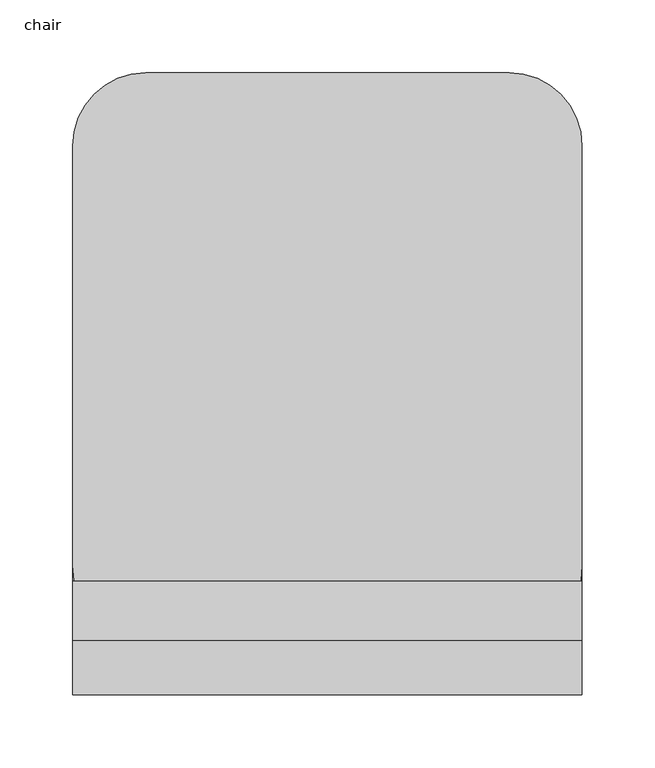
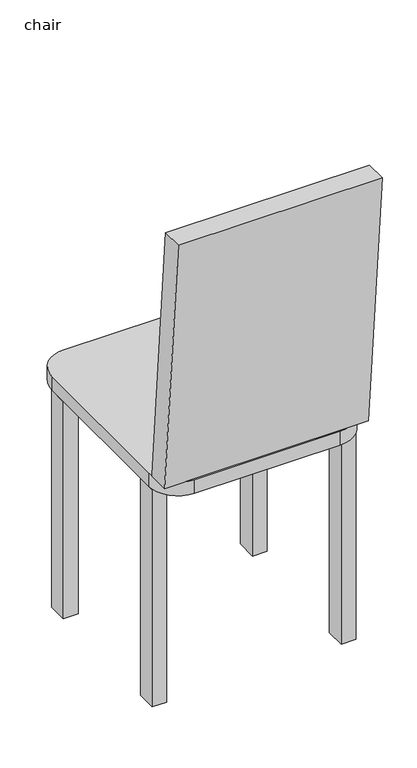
"""IFC4 building model written with IfcOpenShell, lengths in millimetres: furniture geometry, Fu_стул_LEG : chair."""

from ifc_helpers import new_model, si_unit, point, frame, frame_2d, origin, place, context, project, spatial, polyline, circle_curve, trimmed, segment, composite_curve, outline, extrude, source, transform, mapped, element, save


def chair_320c8197(model_context):
    return source(origin(), model_context, "Body", "SweptSolid", [
        extrude(outline(composite_curve([segment(trimmed(circle_curve(frame_2d((-153.2, -90.9469039)), 50.0), [point((-153.2, -140.9469039))], [point((-203.2, -90.9469039))], False, "CARTESIAN"), True, "CONTINUOUS"), segment(polyline([(-203.2, -90.9469039), (-203.2, 197.6)]), True, "CONTINUOUS"), segment(trimmed(circle_curve(frame_2d((-153.2, 197.6)), 50.0), [point((-203.2, 197.6))], [point((-153.2, 247.6))], False, "CARTESIAN"), True, "CONTINUOUS"), segment(polyline([(-153.2, 247.6), (96.8, 247.6)]), True, "CONTINUOUS"), segment(trimmed(circle_curve(frame_2d((96.8, 197.6)), 50.0), [point((96.8, 247.6))], [point((146.8, 197.6))], False, "CARTESIAN"), True, "CONTINUOUS"), segment(polyline([(146.8, 197.6), (146.8, -90.9469039)]), True, "CONTINUOUS"), segment(trimmed(circle_curve(frame_2d((96.8, -90.9469039)), 50.0), [point((146.8, -90.9469039))], [point((96.8, -140.9469039))], False, "CARTESIAN"), True, "CONTINUOUS"), segment(polyline([(96.8, -140.9469039), (-153.2, -140.9469039)]), True, "CONTINUOUS")], self_intersect=False)), frame((0.0, 0.0, 406.4), z_axis=(0.0, 0.0, 1.0), x_axis=(1.0, 0.0, 0.0)), (0.0, 0.0, 1.0), 25.0),
        extrude(outline(polyline([(-178.2, 197.6), (-178.2, 162.6), (-203.2, 162.6), (-203.2, 197.6), (-178.2, 197.6)])), frame((0.0, 0.0, 12.3), z_axis=(0.0, 0.0, 1.0), x_axis=(1.0, 0.0, 0.0)), (0.0, 0.0, 1.0), 394.1),
        extrude(outline(polyline([(146.8, 198.839567), (146.8, 162.6), (121.8, 162.6), (121.8, 198.839567), (146.8, 198.839567)])), frame((0.0, 0.0, 12.3), z_axis=(0.0, 0.0, 1.0), x_axis=(1.0, 0.0, 0.0)), (0.0, 0.0, 1.0), 394.1),
        extrude(outline(polyline([(-178.2, -66.5143569), (-178.2, -101.5143569), (-203.2, -101.5143569), (-203.2, -66.5143569), (-178.2, -66.5143569)])), frame((0.0, 0.0, 12.3), z_axis=(0.0, 0.0, 1.0), x_axis=(1.0, 0.0, 0.0)), (0.0, 0.0, 1.0), 394.1),
        extrude(outline(polyline([(146.8, -66.5143569), (146.8, -101.5143569), (121.8, -101.5143569), (121.8, -66.5143569), (146.8, -66.5143569)])), frame((0.0, 0.0, 12.3), z_axis=(0.0, 0.0, 1.0), x_axis=(1.0, 0.0, 0.0)), (0.0, 0.0, 1.0), 394.1),
        extrude(outline(polyline([(-138.8692142, 431.4), (-179.6662584, 897.7123493), (-142.0230145, 897.7123493), (-101.5143569, 434.6962747), (-101.5143569, 431.4), (-138.8692142, 431.4)])), frame((-203.2, 0.0, 0.0), z_axis=(1.0, 0.0, 0.0), x_axis=(0.0, 1.0, 0.0)), (0.0, 0.0, 1.0), 350.0),
    ])


if __name__ == "__main__":
    model = new_model("IFC4")
    model_context = context("Model", 3, world=origin())
    ifc_project = project(units=[si_unit("LENGTHUNIT", "METRE", prefix="MILLI")], contexts=[model_context])
    site = spatial("IfcSite", under=ifc_project)
    building = spatial("IfcBuilding", under=site)
    placement = place(None, origin())
    chair_shape = chair_320c8197(model_context)
    element("IfcFurniture", 1, ObjectType="Fu_стул_LEG : chair", at=placement, inside=building, context=model_context, shape_type="MappedRepresentation", body=[
        mapped(chair_shape, transform((0.0, 0.0, 0.0), x_axis=(1.0, 0.0, 0.0), y_axis=(0.0, 1.0, 0.0), z_axis=(0.0, 0.0, 1.0))),
    ])
    save(model, "model.ifc")
